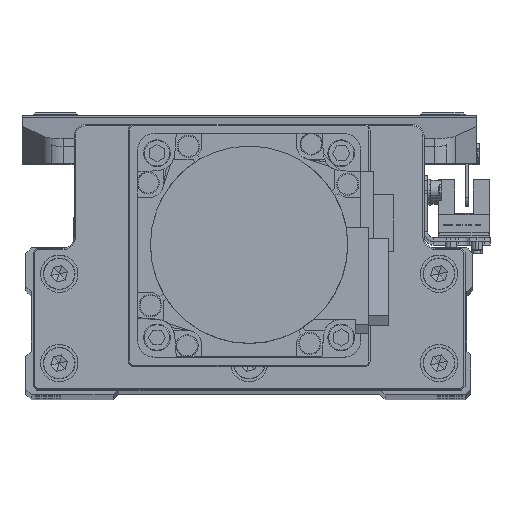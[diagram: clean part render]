
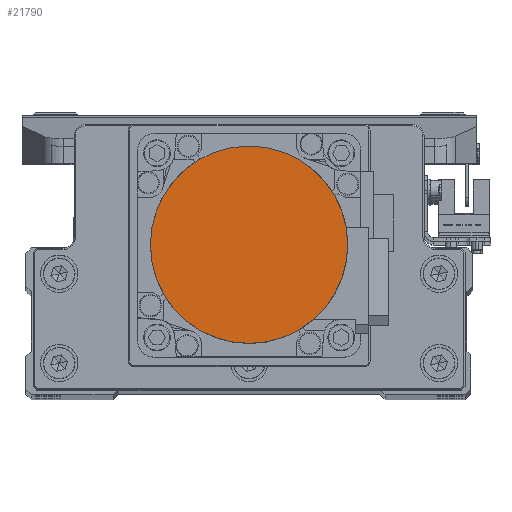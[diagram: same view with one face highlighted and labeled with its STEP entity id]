
A CAD part, top view. The second image highlights one B-rep face of the part: STEP entity #21790.
In plain terms, the highlighted planar face has unit normal (0, 0, 1) as drawn and (0, 0, -1) by its records, which use the part's own axes.
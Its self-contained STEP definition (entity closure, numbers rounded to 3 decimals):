
#2584 = CIRCLE ( 'NONE', #27242, 26.5 ) ;
#3763 = DIRECTION ( 'NONE',  ( 0., 0., 1. ) ) ;
#5247 = ORIENTED_EDGE ( 'NONE', *, *, #9933, .F. ) ;
#6434 = DIRECTION ( 'NONE',  ( 1., 0., 0. ) ) ;
#6708 = CIRCLE ( 'NONE', #31357, 26.5 ) ;
#7102 = FACE_OUTER_BOUND ( 'NONE', #25312, .T. ) ;
#7136 = DIRECTION ( 'NONE',  ( -1., 0., 0. ) ) ;
#9933 = EDGE_CURVE ( 'NONE', #38053, #21038, #2584, .T. ) ;
#10279 = EDGE_CURVE ( 'NONE', #21038, #38053, #6708, .T. ) ;
#14556 = CARTESIAN_POINT ( 'NONE',  ( -26.5, 0., -109.7 ) ) ;
#17200 = DIRECTION ( 'NONE',  ( 1., 0., 0. ) ) ;
#19635 = ORIENTED_EDGE ( 'NONE', *, *, #10279, .F. ) ;
#20540 = PLANE ( 'NONE',  #21245 ) ;
#21038 = VERTEX_POINT ( 'NONE', #30519 ) ;
#21245 = AXIS2_PLACEMENT_3D ( 'NONE', #33990, #3763, #17200 ) ;
#21790 = ADVANCED_FACE ( 'NONE', ( #7102 ), #20540, .F. ) ;
#23208 = CARTESIAN_POINT ( 'NONE',  ( 0., 0., -109.7 ) ) ;
#23911 = CARTESIAN_POINT ( 'NONE',  ( 0., 0., -109.7 ) ) ;
#25312 = EDGE_LOOP ( 'NONE', ( #5247, #19635 ) ) ;
#27242 = AXIS2_PLACEMENT_3D ( 'NONE', #23911, #37378, #7136 ) ;
#30519 = CARTESIAN_POINT ( 'NONE',  ( 26.5, 0., -109.7 ) ) ;
#31357 = AXIS2_PLACEMENT_3D ( 'NONE', #23208, #36671, #6434 ) ;
#33990 = CARTESIAN_POINT ( 'NONE',  ( 0., 0., -109.7 ) ) ;
#36671 = DIRECTION ( 'NONE',  ( 0., 0., 1. ) ) ;
#37378 = DIRECTION ( 'NONE',  ( 0., 0., 1. ) ) ;
#38053 = VERTEX_POINT ( 'NONE', #14556 ) ;
